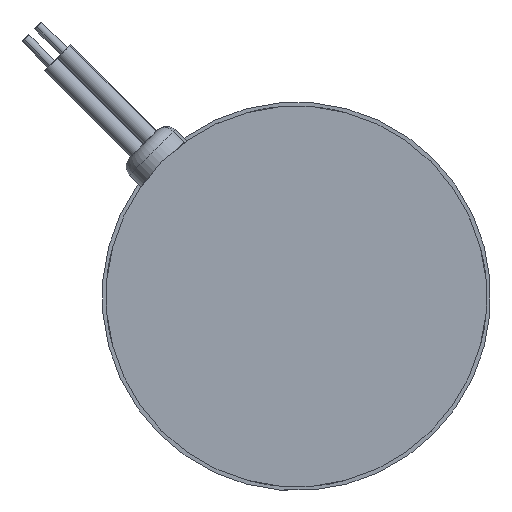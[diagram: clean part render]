
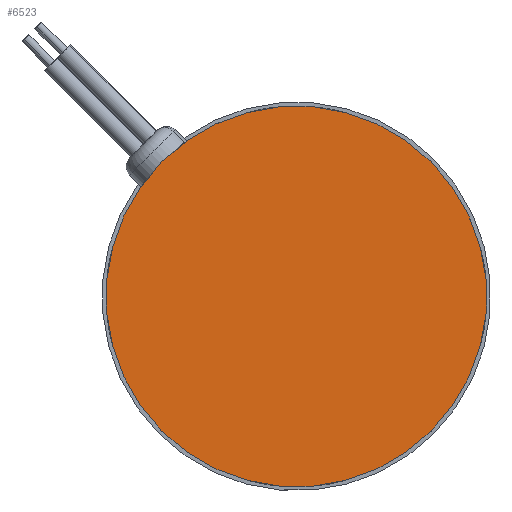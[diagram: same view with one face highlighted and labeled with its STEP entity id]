
A CAD part, left-side view. The second image highlights one B-rep face of the part: STEP entity #6523.
In plain terms, the highlighted planar face has unit normal (-1, 0, 0).
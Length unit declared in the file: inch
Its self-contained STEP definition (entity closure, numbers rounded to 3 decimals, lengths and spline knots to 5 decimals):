
#447 = CARTESIAN_POINT ( 'NONE',  ( -0.32797, 3.51222, 4.67391 ) ) ;
#633 = CARTESIAN_POINT ( 'NONE',  ( -0.32797, 3.51222, 4.67391 ) ) ;
#1140 = PLANE ( 'NONE',  #7459 ) ;
#1359 = DIRECTION ( 'NONE',  ( 1., 0., 0. ) ) ;
#2853 = DIRECTION ( 'NONE',  ( 1., 0., 0. ) ) ;
#3067 = CIRCLE ( 'NONE', #5858, 1.5624 ) ;
#3695 = VERTEX_POINT ( 'NONE', #8653 ) ;
#4242 = DIRECTION ( 'NONE',  ( 0., -0.707, 0.707 ) ) ;
#4649 = EDGE_LOOP ( 'NONE', ( #7074, #4657 ) ) ;
#4657 = ORIENTED_EDGE ( 'NONE', *, *, #6830, .F. ) ;
#4984 = DIRECTION ( 'NONE',  ( 1., 0., 0. ) ) ;
#5858 = AXIS2_PLACEMENT_3D ( 'NONE', #447, #2853, #8243 ) ;
#6354 = AXIS2_PLACEMENT_3D ( 'NONE', #633, #1359, #9965 ) ;
#6523 = ADVANCED_FACE ( 'NONE', ( #6558 ), #1140, .F. ) ;
#6558 = FACE_OUTER_BOUND ( 'NONE', #4649, .T. ) ;
#6673 = EDGE_CURVE ( 'NONE', #7185, #3695, #3067, .T. ) ;
#6830 = EDGE_CURVE ( 'NONE', #3695, #7185, #7523, .T. ) ;
#7074 = ORIENTED_EDGE ( 'NONE', *, *, #6673, .F. ) ;
#7185 = VERTEX_POINT ( 'NONE', #9582 ) ;
#7201 = CARTESIAN_POINT ( 'NONE',  ( -0.32797, 3.51222, 4.67391 ) ) ;
#7459 = AXIS2_PLACEMENT_3D ( 'NONE', #7201, #4984, #4242 ) ;
#7523 = CIRCLE ( 'NONE', #6354, 1.5624 ) ;
#8243 = DIRECTION ( 'NONE',  ( 0., -0.707, 0.707 ) ) ;
#8653 = CARTESIAN_POINT ( 'NONE',  ( -0.32797, 2.40744, 5.7787 ) ) ;
#9582 = CARTESIAN_POINT ( 'NONE',  ( -0.32797, 4.61701, 3.56913 ) ) ;
#9965 = DIRECTION ( 'NONE',  ( 0., -0.707, 0.707 ) ) ;
